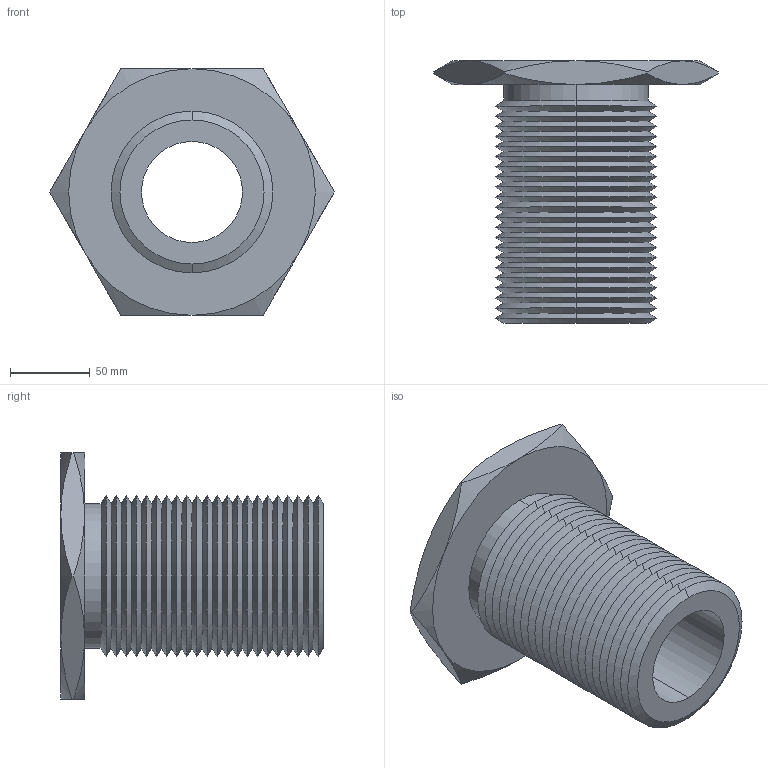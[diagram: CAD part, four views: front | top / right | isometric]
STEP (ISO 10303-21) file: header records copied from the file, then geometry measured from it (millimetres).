
FILE_DESCRIPTION (( 'STEP AP203' ), '1' );
FILE_NAME ('63302.W5400_2,50 UNC-4.step', '2013-12-08T12:04:16', ( 'User' ), ( '' ), 'SwSTEP 2.0', 'SolidWorks 2009', '' );
FILE_SCHEMA (( 'CONFIG_CONTROL_DESIGN' ));
Length unit declared in the file: millimetre
Products named in the file (1): 63302.W5400_2,50 UNC-4
Bounding box: 178.98 x 165 x 155 mm (x, y, z)
Volume: 857992.5 mm3; surface area: 160894 mm2
Topology: 1 solids, 1 shells, 115 faces, 234 edges, 122 vertices
Faces by surface type: cone 102, plane 9, cylinder 4
Entity records: 3179 total; most frequent: CARTESIAN_POINT 696, DIRECTION 552, ORIENTED_EDGE 468, EDGE_CURVE 234, AXIS2_PLACEMENT_3D 226, VERTEX_POINT 122, EDGE_LOOP 118, ADVANCED_FACE 115
